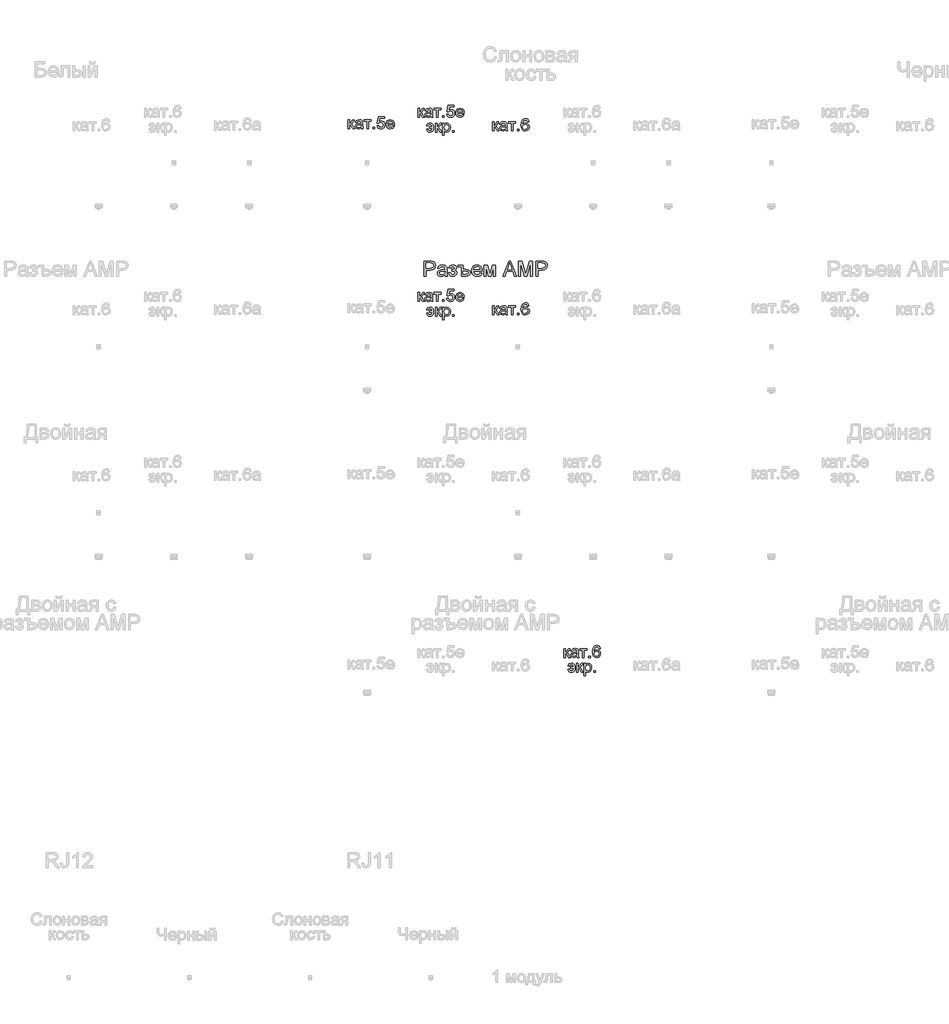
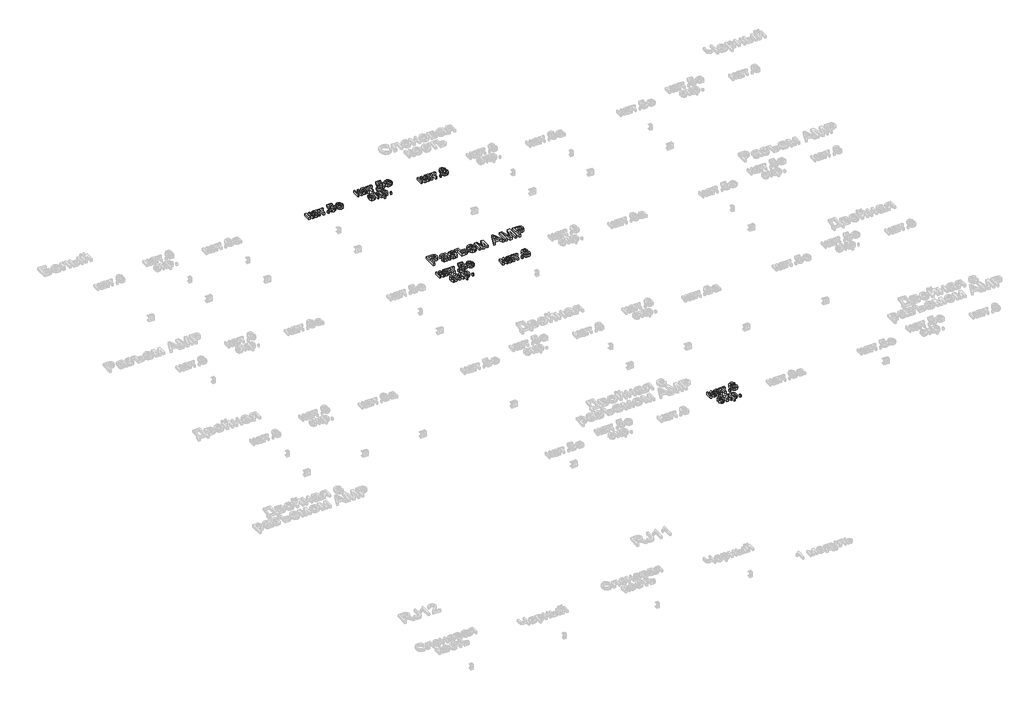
# One storey, part 28 of 47: 7 proxies.
"""IFC4 building model written with IfcOpenShell, lengths in millimetres."""

from ifc_helpers import new_model, si_unit, origin, origin_with_axes, place, context, project, spatial, polyline, outline, extrude, element, save

model = new_model("IFC4")

# Units and contexts
model_context = context("Model", 3, world=origin())
ifc_project = project(units=[si_unit("LENGTHUNIT", "METRE", prefix="MILLI")], contexts=[model_context])

# Site, building, storey
site = spatial("IfcSite", under=ifc_project)
building = spatial("IfcBuilding", under=site)
storey = spatial("IfcBuildingStorey", under=building, Name="Этаж 01", Elevation=0.0)

# Proxies
placement = place(None, origin())
element("IfcBuildingElementProxy", 1, Name="80 мм Arial", ObjectType="80 мм Arial", at=placement, inside=storey, context=model_context, shape_type="SweptSolid", body=[
    extrude(outline(polyline([(2660.6064135, -20034.963684), (2670.6520445, -20034.963684), (2670.6520445, -20060.0777615), (2677.3818324, -20058.2726872), (2682.8951573, -20047.7561672), (2687.4765144, -20038.6817447), (2691.5183112, -20035.7288785), (2698.866141, -20034.963684), (2700.7889375, -20034.963684), (2700.7889375, -20045.0681761), (2698.081326, -20045.009315), (2693.1762328, -20046.0688151), (2689.7230471, -20052.6808809), (2685.6714401, -20059.8325069), (2679.9913421, -20063.3347434), (2686.3287226, -20067.2441028), (2692.5483808, -20075.4797544), (2703.3003453, -20093.9817662), (2691.8812881, -20093.9817662), (2681.3451478, -20075.8721618), (2676.0476471, -20068.2104062), (2670.6520445, -20066.3562809), (2670.6520445, -20093.9817662), (2660.6064135, -20093.9817662), (2660.6064135, -20034.963684)])), origin_with_axes(), (0.0, 0.0, 1.0), 20.0),
    extrude(outline(polyline([(2747.249981, -20086.4475429), (2737.5084657, -20093.2558124), (2726.7466911, -20095.2374701), (2712.1589437, -20090.4697194), (2707.0674569, -20078.2854677), (2708.9902535, -20070.3392166), (2714.0424995, -20064.570827), (2721.0764033, -20061.2746043), (2729.7682285, -20059.7638355), (2747.1911198, -20056.3106499), (2747.249981, -20054.0739274), (2744.4835084, -20046.6574263), (2733.3783772, -20043.7536111), (2723.2150239, -20045.6862179), (2718.3687918, -20052.5435383), (2708.3231608, -20051.2878344), (2712.6690734, -20041.4776478), (2721.4197598, -20035.7288785), (2734.6733218, -20033.7079801), (2746.8477633, -20035.4934341), (2753.7247041, -20039.9766893), (2756.8051026, -20046.7947689), (2757.295612, -20055.5846961), (2757.295612, -20068.0828737), (2757.8057417, -20085.5351956), (2759.8070197, -20093.9817662), (2749.7613887, -20093.9817662), (2747.249981, -20086.4475429)]), holes=[polyline([(2747.249981, -20066.3562809), (2731.0435528, -20069.4366795), (2722.4007785, -20071.0651704), (2718.486514, -20073.7139208), (2717.1130879, -20077.5791343), (2720.1051948, -20083.0139776), (2728.8853118, -20085.1918391), (2739.048665, -20082.7883434), (2745.6018696, -20076.9709027), (2747.1911198, -20069.201235), (2747.249981, -20066.3562809)])]), origin_with_axes(), (0.0, 0.0, 1.0), 20.0),
    extrude(outline(polyline([(2766.0855391, -20034.963684), (2813.8022864, -20034.963684), (2813.8022864, -20045.009315), (2794.9667283, -20045.009315), (2794.9667283, -20093.9817662), (2784.9210973, -20093.9817662), (2784.9210973, -20045.009315), (2766.0855391, -20045.009315), (2766.0855391, -20034.963684)])), origin_with_axes(), (0.0, 0.0, 1.0), 20.0),
    extrude(outline(polyline([(2825.1036213, -20093.9817662), (2825.1036213, -20083.9361352), (2835.1492523, -20083.9361352), (2835.1492523, -20093.9817662), (2825.1036213, -20093.9817662)])), origin_with_axes(), (0.0, 0.0, 1.0), 20.0),
    extrude(outline(polyline([(2851.4734027, -20072.6348003), (2861.5190338, -20071.3790964), (2866.58109, -20081.7288432), (2877.0779896, -20085.1918391), (2889.6742691, -20080.3750375), (2894.1673346, -20067.5923644), (2889.9587645, -20055.6631776), (2877.2349526, -20051.2878344), (2868.4155949, -20053.0340476), (2862.7747376, -20057.5663538), (2852.7291066, -20056.3106499), (2861.5190338, -20014.872422), (2900.4458539, -20014.872422), (2900.4458539, -20024.918053), (2869.6418682, -20024.918053), (2865.3450065, -20047.0498338), (2880.0406659, -20041.2422034), (2889.4265619, -20043.0423726), (2897.2183026, -20048.4428803), (2902.4642998, -20056.6736268), (2904.2129656, -20066.9645125), (2902.6384306, -20077.0101435), (2897.9148258, -20085.6038669), (2888.8698338, -20092.8290693), (2877.0387489, -20095.2374701), (2867.1721537, -20093.6899131), (2859.3117418, -20089.0472424), (2853.9234968, -20081.849018), (2851.4734027, -20072.6348003)])), origin_with_axes(), (0.0, 0.0, 1.0), 20.0),
    extrude(outline(polyline([(2956.8348062, -20076.4019119), (2966.6842334, -20077.6576158), (2957.4724683, -20090.6266824), (2940.314452, -20095.2374701), (2928.5275129, -20093.2484548), (2919.4579954, -20087.2814088), (2913.6748905, -20077.7238346), (2911.7471888, -20064.9632344), (2913.6945109, -20051.7734386), (2919.5364769, -20041.9092961), (2928.4833671, -20035.7583091), (2939.7454612, -20033.7079801), (2950.6568412, -20035.753404), (2959.3756445, -20041.8896757), (2965.0925307, -20051.7341979), (2966.9981594, -20064.9043733), (2966.9392983, -20067.6119848), (2921.7928198, -20067.6119848), (2927.5710197, -20080.6595329), (2940.5106558, -20085.1918391), (2950.360083, -20083.0924591), (2956.8348062, -20076.4019119)]), holes=[polyline([(2921.7928198, -20057.5663538), (2956.9525284, -20057.5663538), (2952.9303519, -20048.4625007), (2939.7062205, -20043.7536111), (2927.3355752, -20047.5109126), (2921.7928198, -20057.5663538)])]), origin_with_axes(), (0.0, 0.0, 1.0), 20.0),
])
element("IfcBuildingElementProxy", 2, Name="80 мм Arial", ObjectType="80 мм Arial", at=placement, inside=storey, context=model_context, shape_type="SweptSolid", body=[
    extrude(outline(polyline([(3123.2827356, -19958.8197599), (3133.3283666, -19958.8197599), (3133.3283666, -19983.9338374), (3140.0581546, -19982.1287631), (3145.5714794, -19971.6122431), (3150.1528365, -19962.5378206), (3154.1946334, -19959.5849544), (3161.5424631, -19958.8197599), (3163.4652597, -19958.8197599), (3163.4652597, -19968.924252), (3160.7576482, -19968.8653909), (3155.8525549, -19969.924891), (3152.3993693, -19976.5369568), (3148.3477622, -19983.6885828), (3142.6676642, -19987.1908193), (3149.0050447, -19991.1001787), (3155.224703, -19999.3358303), (3165.9766674, -20017.8378421), (3154.5576103, -20017.8378421), (3144.02147, -19999.7282377), (3138.7239692, -19992.0664821), (3133.3283666, -19990.2123568), (3133.3283666, -20017.8378421), (3123.2827356, -20017.8378421), (3123.2827356, -19958.8197599)])), origin_with_axes(), (0.0, 0.0, 1.0), 20.0),
    extrude(outline(polyline([(3209.9263031, -20010.3036188), (3200.1847879, -20017.1118883), (3189.4230133, -20019.093546), (3174.8352659, -20014.3257953), (3169.7437791, -20002.1415436), (3171.6665756, -19994.1952925), (3176.7188217, -19988.4269029), (3183.7527254, -19985.1306802), (3192.4445507, -19983.6199114), (3209.867442, -19980.1667258), (3209.9263031, -19977.9300033), (3207.1598305, -19970.5135022), (3196.0546994, -19967.609687), (3185.8913461, -19969.5422938), (3181.045114, -19976.3996142), (3170.9994829, -19975.1439103), (3175.3453956, -19965.3337237), (3184.096082, -19959.5849544), (3197.349644, -19957.564056), (3209.5240855, -19959.34951), (3216.4010262, -19963.8327652), (3219.4814248, -19970.6508448), (3219.9719341, -19979.440772), (3219.9719341, -19991.9389496), (3220.4820638, -20009.3912715), (3222.4833419, -20017.8378421), (3212.4377109, -20017.8378421), (3209.9263031, -20010.3036188)]), holes=[polyline([(3209.9263031, -19990.2123568), (3193.719875, -19993.2927554), (3185.0771006, -19994.9212463), (3181.1628362, -19997.5699967), (3179.7894101, -20001.4352102), (3182.781517, -20006.8700535), (3191.5616339, -20009.047915), (3201.7249872, -20006.6444193), (3208.2781918, -20000.8269786), (3209.867442, -19993.0573109), (3209.9263031, -19990.2123568)])]), origin_with_axes(), (0.0, 0.0, 1.0), 20.0),
    extrude(outline(polyline([(3228.7618613, -19958.8197599), (3276.4786086, -19958.8197599), (3276.4786086, -19968.8653909), (3257.6430504, -19968.8653909), (3257.6430504, -20017.8378421), (3247.5974194, -20017.8378421), (3247.5974194, -19968.8653909), (3228.7618613, -19968.8653909), (3228.7618613, -19958.8197599)])), origin_with_axes(), (0.0, 0.0, 1.0), 20.0),
    extrude(outline(polyline([(3287.7799435, -20017.8378421), (3287.7799435, -20007.7922111), (3297.8255745, -20007.7922111), (3297.8255745, -20017.8378421), (3287.7799435, -20017.8378421)])), origin_with_axes(), (0.0, 0.0, 1.0), 20.0),
    extrude(outline(polyline([(3314.1497249, -19996.4908762), (3324.1953559, -19995.2351723), (3329.2574122, -20005.5849191), (3339.7543118, -20009.047915), (3352.3505913, -20004.2311134), (3356.8436567, -19991.4484403), (3352.6350867, -19979.5192535), (3339.9112748, -19975.1439103), (3331.0919171, -19976.8901235), (3325.4510598, -19981.4224297), (3315.4054288, -19980.1667258), (3324.1953559, -19938.7284978), (3363.1221761, -19938.7284978), (3363.1221761, -19948.7741289), (3332.3181904, -19948.7741289), (3328.0213287, -19970.9059097), (3342.7169881, -19965.0982793), (3352.1028841, -19966.8984485), (3359.8946247, -19972.2989562), (3365.140622, -19980.5297027), (3366.8892877, -19990.8205884), (3365.3147528, -20000.8662194), (3360.591148, -20009.4599428), (3351.546156, -20016.6851452), (3339.715071, -20019.093546), (3329.8484759, -20017.545989), (3321.9880639, -20012.9033183), (3316.599819, -20005.7050939), (3314.1497249, -19996.4908762)])), origin_with_axes(), (0.0, 0.0, 1.0), 20.0),
    extrude(outline(polyline([(3419.5111283, -20000.2579878), (3429.3605556, -20001.5136917), (3420.1487904, -20014.4827583), (3402.9907742, -20019.093546), (3391.2038351, -20017.1045306), (3382.1343176, -20011.1374847), (3376.3512126, -20001.5799105), (3374.423511, -19988.8193103), (3376.370833, -19975.6295145), (3382.2127991, -19965.7653719), (3391.1596892, -19959.614385), (3402.4217834, -19957.564056), (3413.3331634, -19959.6094799), (3422.0519666, -19965.7457516), (3427.7688528, -19975.5902738), (3429.6744816, -19988.7604492), (3429.6156205, -19991.4680607), (3384.469142, -19991.4680607), (3390.2473419, -20004.5156088), (3403.1869779, -20009.047915), (3413.0364052, -20006.948535), (3419.5111283, -20000.2579878)]), holes=[polyline([(3384.469142, -19981.4224297), (3419.6288506, -19981.4224297), (3415.6066741, -19972.3185766), (3402.3825426, -19967.609687), (3390.0118974, -19971.3669885), (3384.469142, -19981.4224297)])]), origin_with_axes(), (0.0, 0.0, 1.0), 20.0),
    extrude(outline(polyline([(3198.6249682, -20079.0022839), (3217.4605264, -20079.0022839), (3212.91841, -20069.0253242), (3203.3730985, -20065.1895413), (3195.2306437, -20067.700949), (3191.090745, -20075.2351723), (3181.045114, -20073.9794684), (3187.9416751, -20060.4119804), (3202.764867, -20055.1439103), (3213.0189644, -20057.1942393), (3220.8646611, -20063.3452262), (3225.8457833, -20073.0867415), (3227.5061574, -20085.9086553), (3226.1351838, -20098.6717079), (3221.3944112, -20108.7075288), (3213.6468164, -20115.0350991), (3203.2553763, -20116.6734002), (3194.3477269, -20115.2043248), (3187.3236333, -20110.7970985), (3179.7894101, -20095.3264343), (3189.8350411, -20094.0707305), (3194.1613334, -20103.4885095), (3203.0984133, -20106.6277692), (3213.0459424, -20102.2328057), (3217.4605264, -20089.047915), (3198.6249682, -20089.047915), (3198.6249682, -20079.0022839)])), origin_with_axes(), (0.0, 0.0, 1.0), 20.0),
    extrude(outline(polyline([(3238.8074923, -20056.3996142), (3248.8531233, -20056.3996142), (3248.8531233, -20081.5136917), (3255.5829113, -20079.7086174), (3261.0962361, -20069.1920974), (3265.6775932, -20060.1176749), (3269.7193901, -20057.1648087), (3277.0672198, -20056.3996142), (3278.9900164, -20056.3996142), (3278.9900164, -20066.5041063), (3276.2824049, -20066.4452452), (3271.3773116, -20067.5047453), (3267.9241259, -20074.116811), (3263.8725189, -20081.268437), (3258.1924209, -20084.7706736), (3264.5298014, -20088.680033), (3270.7494597, -20096.9156846), (3281.5014241, -20115.4176964), (3270.082367, -20115.4176964), (3259.5462266, -20097.308092), (3254.2487259, -20089.6463363), (3248.8531233, -20087.7922111), (3248.8531233, -20115.4176964), (3238.8074923, -20115.4176964), (3238.8074923, -20056.3996142)])), origin_with_axes(), (0.0, 0.0, 1.0), 20.0),
    extrude(outline(polyline([(3287.7799435, -20138.0203662), (3287.7799435, -20056.3996142), (3297.8255745, -20056.3996142), (3297.8255745, -20066.2490414), (3304.7711866, -20057.9201931), (3314.1497249, -20055.1439103), (3326.883347, -20059.0287441), (3335.2023852, -20069.9769123), (3338.0080986, -20085.4573867), (3334.8394083, -20101.7324861), (3325.6374533, -20112.8179969), (3312.9332618, -20116.6734002), (3304.1923856, -20114.0933212), (3297.8255745, -20107.5695471), (3297.8255745, -20138.0203662), (3287.7799435, -20138.0203662)]), holes=[polyline([(3297.8255745, -20086.3795442), (3302.1714871, -20101.6834352), (3312.7174377, -20106.6277692), (3323.4792123, -20101.5068519), (3327.9624676, -20085.63397), (3323.5871244, -20070.2908383), (3313.1294655, -20065.1895413), (3302.4657927, -20070.6145744), (3297.8255745, -20086.3795442)])]), origin_with_axes(), (0.0, 0.0, 1.0), 20.0),
    extrude(outline(polyline([(3351.8208412, -20115.4176964), (3351.8208412, -20105.3720654), (3361.8664722, -20105.3720654), (3361.8664722, -20115.4176964), (3351.8208412, -20115.4176964)])), origin_with_axes(), (0.0, 0.0, 1.0), 20.0),
])
element("IfcBuildingElementProxy", 3, Name="80 мм Arial", ObjectType="80 мм Arial", at=placement, inside=storey, context=model_context, shape_type="SweptSolid", body=[
    extrude(outline(polyline([(3617.8748928, -20047.654338), (3627.9205238, -20047.654338), (3627.9205238, -20072.7684155), (3634.6503118, -20070.9633412), (3640.1636366, -20060.4468212), (3644.7449937, -20051.3723987), (3648.7867906, -20048.4195325), (3656.1346203, -20047.654338), (3658.0574169, -20047.654338), (3658.0574169, -20057.7588301), (3655.3498054, -20057.699969), (3650.4447121, -20058.7594692), (3646.9915264, -20065.3715349), (3642.9399194, -20072.5231609), (3637.2598214, -20076.0253975), (3643.5972019, -20079.9347568), (3649.8168602, -20088.1704084), (3660.5688246, -20106.6724202), (3649.1497675, -20106.6724202), (3638.6136271, -20088.5628159), (3633.3161264, -20080.9010602), (3627.9205238, -20079.0469349), (3627.9205238, -20106.6724202), (3617.8748928, -20106.6724202), (3617.8748928, -20047.654338)])), origin_with_axes(), (0.0, 0.0, 1.0), 20.0),
    extrude(outline(polyline([(3704.5184603, -20099.1381969), (3694.7769451, -20105.9464664), (3684.0151704, -20107.9281241), (3669.4274231, -20103.1603734), (3664.3359362, -20090.9761218), (3666.2587328, -20083.0298707), (3671.3109789, -20077.261481), (3678.3448826, -20073.9652583), (3687.0367079, -20072.4544896), (3704.4595992, -20069.0013039), (3704.5184603, -20066.7645814), (3701.7519877, -20059.3480804), (3690.6468565, -20056.4442651), (3680.4835033, -20058.3768719), (3675.6372711, -20065.2341923), (3665.5916401, -20063.9784884), (3669.9375528, -20054.1683019), (3678.6882391, -20048.4195325), (3691.9418012, -20046.3986341), (3704.1162427, -20048.1840881), (3710.9931834, -20052.6673433), (3714.073582, -20059.485423), (3714.5640913, -20068.2753501), (3714.5640913, -20080.7735278), (3715.074221, -20098.2258496), (3717.0754991, -20106.6724202), (3707.0298681, -20106.6724202), (3704.5184603, -20099.1381969)]), holes=[polyline([(3704.5184603, -20079.0469349), (3688.3120321, -20082.1273335), (3679.6692578, -20083.7558245), (3675.7549934, -20086.4045748), (3674.3815673, -20090.2697883), (3677.3736742, -20095.7046317), (3686.1537911, -20097.8824931), (3696.3171444, -20095.4789974), (3702.870349, -20089.6615568), (3704.4595992, -20081.891889), (3704.5184603, -20079.0469349)])]), origin_with_axes(), (0.0, 0.0, 1.0), 20.0),
    extrude(outline(polyline([(3723.3540185, -20047.654338), (3771.0707658, -20047.654338), (3771.0707658, -20057.699969), (3752.2352076, -20057.699969), (3752.2352076, -20106.6724202), (3742.1895766, -20106.6724202), (3742.1895766, -20057.699969), (3723.3540185, -20057.699969), (3723.3540185, -20047.654338)])), origin_with_axes(), (0.0, 0.0, 1.0), 20.0),
    extrude(outline(polyline([(3782.3721007, -20106.6724202), (3782.3721007, -20096.6267892), (3792.4177317, -20096.6267892), (3792.4177317, -20106.6724202), (3782.3721007, -20106.6724202)])), origin_with_axes(), (0.0, 0.0, 1.0), 20.0),
    extrude(outline(polyline([(3860.225741, -20047.654338), (3850.18011, -20048.9100419), (3846.3737576, -20040.5321426), (3836.3085063, -20036.3530031), (3827.2438939, -20038.7859294), (3820.3865735, -20047.919213), (3817.5318092, -20065.8228035), (3826.3904077, -20057.8078811), (3837.3680064, -20055.1885613), (3846.6484429, -20056.9789203), (3854.437731, -20062.3499974), (3859.7205164, -20070.5562185), (3861.4814449, -20080.8520092), (3858.1656019, -20094.7138028), (3849.0421284, -20104.5239894), (3835.876858, -20107.9281241), (3824.4798738, -20105.6717812), (3815.4029987, -20098.9027525), (3809.4653833, -20086.9539453), (3807.4861782, -20069.1582669), (3809.68366, -20049.1503914), (3816.2761053, -20035.4700863), (3825.2769515, -20028.5980506), (3836.9363582, -20026.3073721), (3845.7508108, -20027.724944), (3852.80924, -20031.9776599), (3860.225741, -20047.654338)]), holes=[polyline([(3817.5318092, -20080.6950463), (3819.8568234, -20089.3966817), (3826.0372409, -20095.7144418), (3835.0920431, -20097.8824931), (3846.9329383, -20093.3894276), (3851.4358139, -20081.1855556), (3846.9917994, -20069.5016234), (3834.6800153, -20065.2341923), (3822.5251942, -20069.5016234), (3817.5318092, -20080.6950463)])]), origin_with_axes(), (0.0, 0.0, 1.0), 20.0),
])
element("IfcBuildingElementProxy", 4, Name="100 мм Arial", ObjectType="100 мм Arial", at=placement, inside=storey, context=model_context, shape_type="SweptSolid", body=[
    extrude(outline(polyline([(3164.3904734, -21070.9026382), (3164.3904734, -20970.4463281), (3201.6201313, -20970.4463281), (3216.6297168, -20971.4028213), (3228.8311363, -20976.0994481), (3236.7405992, -20985.8115327), (3239.732706, -20999.5090057), (3237.7124208, -21011.3486746), (3231.6515649, -21021.2140434), (3220.3177338, -21027.8727075), (3202.4785227, -21030.0922622), (3176.9475122, -21030.0922622), (3176.9475122, -21070.9026382), (3164.3904734, -21070.9026382)]), holes=[polyline([(3176.9475122, -21017.5352234), (3203.2142867, -21017.5352234), (3221.7064883, -21012.9244358), (3225.8083725, -21007.375549), (3227.1756673, -20999.9504641), (3223.9505685, -20989.5516664), (3215.4770198, -20983.8617582), (3202.9199811, -20983.0033668), (3176.9475122, -20983.0033668), (3176.9475122, -21017.5352234)])]), origin_with_axes(), (0.0, 0.0, 1.0), 20.0),
    extrude(outline(polyline([(3302.5178999, -21061.4848591), (3290.3410059, -21069.995196), (3276.8887876, -21072.4722681), (3266.3949537, -21070.982346), (3258.6541033, -21066.5125797), (3253.8808344, -21059.7251569), (3252.2897448, -21051.2822651), (3254.6932405, -21041.3494513), (3261.0085481, -21034.1389642), (3269.8009278, -21030.0186858), (3280.6657094, -21028.1302249), (3302.4443235, -21023.8137428), (3302.5178999, -21021.0178397), (3299.0598091, -21011.7472134), (3285.1783952, -21008.1174444), (3272.4742036, -21010.5332028), (3266.4164134, -21019.1048533), (3253.8593747, -21017.5352234), (3259.2917655, -21005.2724903), (3270.2301234, -20998.0865286), (3286.797076, -20995.5604056), (3302.0151278, -20997.792223), (3310.6113038, -21003.3962921), (3314.461802, -21011.9188917), (3315.0749387, -21022.9063006), (3315.0749387, -21038.5290226), (3315.7126008, -21060.344425), (3318.2141984, -21070.9026382), (3305.6571596, -21070.9026382), (3302.5178999, -21061.4848591)]), holes=[polyline([(3302.5178999, -21036.3707816), (3282.2598647, -21040.2212798), (3271.4563968, -21042.2568935), (3266.5635662, -21045.5678315), (3264.8467836, -21050.3993484), (3268.5869172, -21057.1929025), (3279.5620634, -21059.9152293), (3292.266255, -21056.9108597), (3300.4577607, -21049.6390589), (3302.4443235, -21039.9269742), (3302.5178999, -21036.3707816)])]), origin_with_axes(), (0.0, 0.0, 1.0), 20.0),
    extrude(outline(polyline([(3349.6067953, -21037.9404114), (3349.6067953, -21025.3833727), (3359.5150837, -21024.8928634), (3364.5182788, -21022.2809012), (3366.8727236, -21016.8239849), (3363.7212012, -21010.4841519), (3355.5910091, -21008.1174444), (3347.1910368, -21010.4718891), (3341.758646, -21017.5352234), (3327.6319774, -21015.9655936), (3337.074282, -21000.6617026), (3354.3156848, -20995.5604056), (3364.8125844, -20997.114707), (3372.7588355, -21001.7776113), (3377.7620306, -21008.5987567), (3379.4297624, -21016.6277812), (3377.0569235, -21024.4268795), (3369.9384069, -21030.4601442), (3378.2402772, -21038.283768), (3380.9993922, -21049.540957), (3379.248887, -21058.7839922), (3373.9973716, -21066.1079095), (3365.600465, -21070.8811784), (3354.4137867, -21072.4722681), (3343.472363, -21071.0007401), (3335.0999819, -21066.5861561), (3329.2966435, -21059.2285162), (3326.0623476, -21048.9278204), (3340.1890162, -21047.3581905), (3345.8543989, -21056.6288168), (3355.6155345, -21059.9152293), (3364.7880589, -21056.7637069), (3368.4423534, -21048.7070912), (3366.1737478, -21042.1097407), (3361.3422309, -21038.5780736), (3352.0593419, -21037.8668351), (3349.6067953, -21037.9404114)])), origin_with_axes(), (0.0, 0.0, 1.0), 20.0),
    extrude(outline(polyline([(3390.4171713, -20997.1300355), (3423.379398, -20997.1300355), (3423.379398, -21025.3833727), (3438.9530692, -21025.3833727), (3453.2391533, -21027.044973), (3462.9880262, -21032.0297741), (3468.5982266, -21039.4242022), (3470.4682934, -21048.3146837), (3468.6472775, -21057.3921719), (3463.1842299, -21064.6118561), (3454.1649897, -21069.3299427), (3441.6753959, -21070.9026382), (3410.8223593, -21070.9026382), (3410.8223593, -21009.6870742), (3390.4171713, -21009.6870742), (3390.4171713, -20997.1300355)]), holes=[polyline([(3423.379398, -21058.3455994), (3436.3043188, -21058.3455994), (3452.9938987, -21055.929841), (3457.9112547, -21048.1675309), (3453.7051372, -21040.6136873), (3437.9475251, -21037.9404114), (3423.379398, -21037.9404114), (3423.379398, -21058.3455994)])]), origin_with_axes(), (0.0, 0.0, 1.0), 20.0),
    extrude(outline(polyline([(3536.2455942, -21048.9278204), (3548.5573783, -21050.4974502), (3544.1213345, -21059.7742079), (3537.0426718, -21066.7087835), (3527.4808056, -21071.0313969), (3515.5951515, -21072.4722681), (3500.8614776, -21069.9859989), (3489.5245808, -21062.5271915), (3482.2956996, -21050.5802237), (3479.8860725, -21034.6294735), (3482.320225, -21018.1422287), (3489.6226826, -21005.8120505), (3500.8062953, -20998.1233168), (3514.883913, -20995.5604056), (3528.5231379, -20998.1171855), (3539.4216421, -21005.7875251), (3546.5677498, -21018.0931778), (3548.9497857, -21034.5558971), (3548.8762093, -21037.9404114), (3492.4431113, -21037.9404114), (3494.6166807, -21047.3397964), (3499.6658611, -21054.2498466), (3506.9529903, -21058.4988836), (3515.8404062, -21059.9152293), (3528.1521903, -21057.2910044), (3536.2455942, -21048.9278204)]), holes=[polyline([(3492.4431113, -21025.3833727), (3536.392747, -21025.3833727), (3531.3650264, -21014.0035563), (3524.0441747, -21009.5889724), (3514.834862, -21008.1174444), (3499.3715555, -21012.8140712), (3494.5063161, -21018.30471), (3492.4431113, -21025.3833727)])]), origin_with_axes(), (0.0, 0.0, 1.0), 20.0),
    extrude(outline(polyline([(3561.5068245, -20997.1300355), (3583.1137603, -20997.1300355), (3599.766552, -21056.1873584), (3617.7191934, -20997.1300355), (3638.418687, -20997.1300355), (3638.418687, -21070.9026382), (3625.8616482, -21070.9026382), (3625.8616482, -21011.5019587), (3607.810905, -21070.9026382), (3591.3297916, -21070.9026382), (3574.0638633, -21008.6570046), (3574.0638633, -21070.9026382), (3561.5068245, -21070.9026382), (3561.5068245, -20997.1300355)])), origin_with_axes(), (0.0, 0.0, 1.0), 20.0),
    extrude(outline(polyline([(3686.3659737, -21070.9026382), (3726.4651111, -20970.4463281), (3737.1582145, -20970.4463281), (3777.2573519, -21070.9026382), (3763.9890746, -21070.9026382), (3752.4866309, -21039.5100413), (3711.1121692, -21039.5100413), (3699.634251, -21070.9026382), (3686.3659737, -21070.9026382)]), holes=[polyline([(3715.7229569, -21026.9530025), (3747.9003687, -21026.9530025), (3738.8504716, -21002.2558579), (3731.8116628, -20983.0033668), (3725.5576689, -21000.0976169), (3715.7229569, -21026.9530025)])]), origin_with_axes(), (0.0, 0.0, 1.0), 20.0),
    extrude(outline(polyline([(3790.672782, -21070.9026382), (3790.672782, -20970.4463281), (3812.2797179, -20970.4463281), (3832.8320587, -21041.2513494), (3836.9768625, -21056.0402056), (3841.4650228, -21040.0250761), (3861.6740071, -20970.4463281), (3883.2809429, -20970.4463281), (3883.2809429, -21070.9026382), (3870.7239042, -21070.9026382), (3870.7239042, -20983.0033668), (3845.4871993, -21070.9026382), (3828.4665257, -21070.9026382), (3803.2298208, -20983.0033668), (3803.2298208, -21070.9026382), (3790.672782, -21070.9026382)])), origin_with_axes(), (0.0, 0.0, 1.0), 20.0),
    extrude(outline(polyline([(3905.2557608, -21070.9026382), (3905.2557608, -20970.4463281), (3942.4854187, -20970.4463281), (3957.4950041, -20971.4028213), (3969.6964236, -20976.0994481), (3977.6058865, -20985.8115327), (3980.5979934, -20999.5090057), (3978.5777081, -21011.3486746), (3972.5168522, -21021.2140434), (3961.1830211, -21027.8727075), (3943.34381, -21030.0922622), (3917.8127996, -21030.0922622), (3917.8127996, -21070.9026382), (3905.2557608, -21070.9026382)]), holes=[polyline([(3917.8127996, -21017.5352234), (3944.079574, -21017.5352234), (3962.5717756, -21012.9244358), (3966.6736599, -21007.375549), (3968.0409546, -20999.9504641), (3964.8158558, -20989.5516664), (3956.3423072, -20983.8617582), (3943.7852684, -20983.0033668), (3917.8127996, -20983.0033668), (3917.8127996, -21017.5352234)])]), origin_with_axes(), (0.0, 0.0, 1.0), 20.0),
])
element("IfcBuildingElementProxy", 5, Name="80 мм Arial", ObjectType="80 мм Arial", at=placement, inside=storey, context=model_context, shape_type="SweptSolid", body=[
    extrude(outline(polyline([(3123.2827356, -21178.8197599), (3133.3283666, -21178.8197599), (3133.3283666, -21203.9338374), (3140.0581546, -21202.1287631), (3145.5714794, -21191.6122431), (3150.1528365, -21182.5378206), (3154.1946334, -21179.5849544), (3161.5424631, -21178.8197599), (3163.4652597, -21178.8197599), (3163.4652597, -21188.924252), (3160.7576482, -21188.8653909), (3155.8525549, -21189.924891), (3152.3993693, -21196.5369568), (3148.3477622, -21203.6885828), (3142.6676642, -21207.1908193), (3149.0050447, -21211.1001787), (3155.224703, -21219.3358303), (3165.9766674, -21237.8378421), (3154.5576103, -21237.8378421), (3144.02147, -21219.7282377), (3138.7239692, -21212.0664821), (3133.3283666, -21210.2123568), (3133.3283666, -21237.8378421), (3123.2827356, -21237.8378421), (3123.2827356, -21178.8197599)])), origin_with_axes(), (0.0, 0.0, 1.0), 20.0),
    extrude(outline(polyline([(3209.9263031, -21230.3036188), (3200.1847879, -21237.1118883), (3189.4230133, -21239.093546), (3174.8352659, -21234.3257953), (3169.7437791, -21222.1415436), (3171.6665756, -21214.1952925), (3176.7188217, -21208.4269029), (3183.7527254, -21205.1306802), (3192.4445507, -21203.6199114), (3209.867442, -21200.1667258), (3209.9263031, -21197.9300033), (3207.1598305, -21190.5135022), (3196.0546994, -21187.609687), (3185.8913461, -21189.5422938), (3181.045114, -21196.3996142), (3170.9994829, -21195.1439103), (3175.3453956, -21185.3337237), (3184.096082, -21179.5849544), (3197.349644, -21177.564056), (3209.5240855, -21179.34951), (3216.4010262, -21183.8327652), (3219.4814248, -21190.6508448), (3219.9719341, -21199.440772), (3219.9719341, -21211.9389496), (3220.4820638, -21229.3912715), (3222.4833419, -21237.8378421), (3212.4377109, -21237.8378421), (3209.9263031, -21230.3036188)]), holes=[polyline([(3209.9263031, -21210.2123568), (3193.719875, -21213.2927554), (3185.0771006, -21214.9212463), (3181.1628362, -21217.5699967), (3179.7894101, -21221.4352102), (3182.781517, -21226.8700535), (3191.5616339, -21229.047915), (3201.7249872, -21226.6444193), (3208.2781918, -21220.8269786), (3209.867442, -21213.0573109), (3209.9263031, -21210.2123568)])]), origin_with_axes(), (0.0, 0.0, 1.0), 20.0),
    extrude(outline(polyline([(3228.7618613, -21178.8197599), (3276.4786086, -21178.8197599), (3276.4786086, -21188.8653909), (3257.6430504, -21188.8653909), (3257.6430504, -21237.8378421), (3247.5974194, -21237.8378421), (3247.5974194, -21188.8653909), (3228.7618613, -21188.8653909), (3228.7618613, -21178.8197599)])), origin_with_axes(), (0.0, 0.0, 1.0), 20.0),
    extrude(outline(polyline([(3287.7799435, -21237.8378421), (3287.7799435, -21227.7922111), (3297.8255745, -21227.7922111), (3297.8255745, -21237.8378421), (3287.7799435, -21237.8378421)])), origin_with_axes(), (0.0, 0.0, 1.0), 20.0),
    extrude(outline(polyline([(3314.1497249, -21216.4908762), (3324.1953559, -21215.2351723), (3329.2574122, -21225.5849191), (3339.7543118, -21229.047915), (3352.3505913, -21224.2311134), (3356.8436567, -21211.4484403), (3352.6350867, -21199.5192535), (3339.9112748, -21195.1439103), (3331.0919171, -21196.8901235), (3325.4510598, -21201.4224297), (3315.4054288, -21200.1667258), (3324.1953559, -21158.7284978), (3363.1221761, -21158.7284978), (3363.1221761, -21168.7741289), (3332.3181904, -21168.7741289), (3328.0213287, -21190.9059097), (3342.7169881, -21185.0982793), (3352.1028841, -21186.8984485), (3359.8946247, -21192.2989562), (3365.140622, -21200.5297027), (3366.8892877, -21210.8205884), (3365.3147528, -21220.8662194), (3360.591148, -21229.4599428), (3351.546156, -21236.6851452), (3339.715071, -21239.093546), (3329.8484759, -21237.545989), (3321.9880639, -21232.9033183), (3316.599819, -21225.7050939), (3314.1497249, -21216.4908762)])), origin_with_axes(), (0.0, 0.0, 1.0), 20.0),
    extrude(outline(polyline([(3419.5111283, -21220.2579878), (3429.3605556, -21221.5136917), (3420.1487904, -21234.4827583), (3402.9907742, -21239.093546), (3391.2038351, -21237.1045306), (3382.1343176, -21231.1374847), (3376.3512126, -21221.5799105), (3374.423511, -21208.8193103), (3376.370833, -21195.6295145), (3382.2127991, -21185.7653719), (3391.1596892, -21179.614385), (3402.4217834, -21177.564056), (3413.3331634, -21179.6094799), (3422.0519666, -21185.7457516), (3427.7688528, -21195.5902738), (3429.6744816, -21208.7604492), (3429.6156205, -21211.4680607), (3384.469142, -21211.4680607), (3390.2473419, -21224.5156088), (3403.1869779, -21229.047915), (3413.0364052, -21226.948535), (3419.5111283, -21220.2579878)]), holes=[polyline([(3384.469142, -21201.4224297), (3419.6288506, -21201.4224297), (3415.6066741, -21192.3185766), (3402.3825426, -21187.609687), (3390.0118974, -21191.3669885), (3384.469142, -21201.4224297)])]), origin_with_axes(), (0.0, 0.0, 1.0), 20.0),
    extrude(outline(polyline([(3198.6249682, -21299.0022839), (3217.4605264, -21299.0022839), (3212.91841, -21289.0253242), (3203.3730985, -21285.1895413), (3195.2306437, -21287.700949), (3191.090745, -21295.2351723), (3181.045114, -21293.9794684), (3187.9416751, -21280.4119804), (3202.764867, -21275.1439103), (3213.0189644, -21277.1942393), (3220.8646611, -21283.3452262), (3225.8457833, -21293.0867415), (3227.5061574, -21305.9086553), (3226.1351838, -21318.6717079), (3221.3944112, -21328.7075288), (3213.6468164, -21335.0350991), (3203.2553763, -21336.6734002), (3194.3477269, -21335.2043248), (3187.3236333, -21330.7970985), (3179.7894101, -21315.3264343), (3189.8350411, -21314.0707305), (3194.1613334, -21323.4885095), (3203.0984133, -21326.6277692), (3213.0459424, -21322.2328057), (3217.4605264, -21309.047915), (3198.6249682, -21309.047915), (3198.6249682, -21299.0022839)])), origin_with_axes(), (0.0, 0.0, 1.0), 20.0),
    extrude(outline(polyline([(3238.8074923, -21276.3996142), (3248.8531233, -21276.3996142), (3248.8531233, -21301.5136917), (3255.5829113, -21299.7086174), (3261.0962361, -21289.1920974), (3265.6775932, -21280.1176749), (3269.7193901, -21277.1648087), (3277.0672198, -21276.3996142), (3278.9900164, -21276.3996142), (3278.9900164, -21286.5041063), (3276.2824049, -21286.4452452), (3271.3773116, -21287.5047453), (3267.9241259, -21294.116811), (3263.8725189, -21301.268437), (3258.1924209, -21304.7706736), (3264.5298014, -21308.680033), (3270.7494597, -21316.9156846), (3281.5014241, -21335.4176964), (3270.082367, -21335.4176964), (3259.5462266, -21317.308092), (3254.2487259, -21309.6463363), (3248.8531233, -21307.7922111), (3248.8531233, -21335.4176964), (3238.8074923, -21335.4176964), (3238.8074923, -21276.3996142)])), origin_with_axes(), (0.0, 0.0, 1.0), 20.0),
    extrude(outline(polyline([(3287.7799435, -21358.0203662), (3287.7799435, -21276.3996142), (3297.8255745, -21276.3996142), (3297.8255745, -21286.2490414), (3304.7711866, -21277.9201931), (3314.1497249, -21275.1439103), (3326.883347, -21279.0287441), (3335.2023852, -21289.9769123), (3338.0080986, -21305.4573867), (3334.8394083, -21321.7324861), (3325.6374533, -21332.8179969), (3312.9332618, -21336.6734002), (3304.1923856, -21334.0933212), (3297.8255745, -21327.5695471), (3297.8255745, -21358.0203662), (3287.7799435, -21358.0203662)]), holes=[polyline([(3297.8255745, -21306.3795442), (3302.1714871, -21321.6834352), (3312.7174377, -21326.6277692), (3323.4792123, -21321.5068519), (3327.9624676, -21305.63397), (3323.5871244, -21290.2908383), (3313.1294655, -21285.1895413), (3302.4657927, -21290.6145744), (3297.8255745, -21306.3795442)])]), origin_with_axes(), (0.0, 0.0, 1.0), 20.0),
    extrude(outline(polyline([(3351.8208412, -21335.4176964), (3351.8208412, -21325.3720654), (3361.8664722, -21325.3720654), (3361.8664722, -21335.4176964), (3351.8208412, -21335.4176964)])), origin_with_axes(), (0.0, 0.0, 1.0), 20.0),
])
element("IfcBuildingElementProxy", 6, Name="80 мм Arial", ObjectType="80 мм Arial", at=placement, inside=storey, context=model_context, shape_type="SweptSolid", body=[
    extrude(outline(polyline([(3617.8748928, -21267.654338), (3627.9205238, -21267.654338), (3627.9205238, -21292.7684155), (3634.6503118, -21290.9633412), (3640.1636366, -21280.4468212), (3644.7449937, -21271.3723987), (3648.7867906, -21268.4195325), (3656.1346203, -21267.654338), (3658.0574169, -21267.654338), (3658.0574169, -21277.7588301), (3655.3498054, -21277.699969), (3650.4447121, -21278.7594692), (3646.9915264, -21285.3715349), (3642.9399194, -21292.5231609), (3637.2598214, -21296.0253975), (3643.5972019, -21299.9347568), (3649.8168602, -21308.1704084), (3660.5688246, -21326.6724202), (3649.1497675, -21326.6724202), (3638.6136271, -21308.5628159), (3633.3161264, -21300.9010602), (3627.9205238, -21299.0469349), (3627.9205238, -21326.6724202), (3617.8748928, -21326.6724202), (3617.8748928, -21267.654338)])), origin_with_axes(), (0.0, 0.0, 1.0), 20.0),
    extrude(outline(polyline([(3704.5184603, -21319.1381969), (3694.7769451, -21325.9464664), (3684.0151704, -21327.9281241), (3669.4274231, -21323.1603734), (3664.3359362, -21310.9761218), (3666.2587328, -21303.0298707), (3671.3109789, -21297.261481), (3678.3448826, -21293.9652583), (3687.0367079, -21292.4544896), (3704.4595992, -21289.0013039), (3704.5184603, -21286.7645814), (3701.7519877, -21279.3480804), (3690.6468565, -21276.4442651), (3680.4835033, -21278.3768719), (3675.6372711, -21285.2341923), (3665.5916401, -21283.9784884), (3669.9375528, -21274.1683019), (3678.6882391, -21268.4195325), (3691.9418012, -21266.3986341), (3704.1162427, -21268.1840881), (3710.9931834, -21272.6673433), (3714.073582, -21279.485423), (3714.5640913, -21288.2753501), (3714.5640913, -21300.7735278), (3715.074221, -21318.2258496), (3717.0754991, -21326.6724202), (3707.0298681, -21326.6724202), (3704.5184603, -21319.1381969)]), holes=[polyline([(3704.5184603, -21299.0469349), (3688.3120321, -21302.1273335), (3679.6692578, -21303.7558245), (3675.7549934, -21306.4045748), (3674.3815673, -21310.2697883), (3677.3736742, -21315.7046317), (3686.1537911, -21317.8824931), (3696.3171444, -21315.4789974), (3702.870349, -21309.6615568), (3704.4595992, -21301.891889), (3704.5184603, -21299.0469349)])]), origin_with_axes(), (0.0, 0.0, 1.0), 20.0),
    extrude(outline(polyline([(3723.3540185, -21267.654338), (3771.0707658, -21267.654338), (3771.0707658, -21277.699969), (3752.2352076, -21277.699969), (3752.2352076, -21326.6724202), (3742.1895766, -21326.6724202), (3742.1895766, -21277.699969), (3723.3540185, -21277.699969), (3723.3540185, -21267.654338)])), origin_with_axes(), (0.0, 0.0, 1.0), 20.0),
    extrude(outline(polyline([(3782.3721007, -21326.6724202), (3782.3721007, -21316.6267892), (3792.4177317, -21316.6267892), (3792.4177317, -21326.6724202), (3782.3721007, -21326.6724202)])), origin_with_axes(), (0.0, 0.0, 1.0), 20.0),
    extrude(outline(polyline([(3860.225741, -21267.654338), (3850.18011, -21268.9100419), (3846.3737576, -21260.5321426), (3836.3085063, -21256.3530031), (3827.2438939, -21258.7859294), (3820.3865735, -21267.919213), (3817.5318092, -21285.8228035), (3826.3904077, -21277.8078811), (3837.3680064, -21275.1885613), (3846.6484429, -21276.9789203), (3854.437731, -21282.3499974), (3859.7205164, -21290.5562185), (3861.4814449, -21300.8520092), (3858.1656019, -21314.7138028), (3849.0421284, -21324.5239894), (3835.876858, -21327.9281241), (3824.4798738, -21325.6717812), (3815.4029987, -21318.9027525), (3809.4653833, -21306.9539453), (3807.4861782, -21289.1582669), (3809.68366, -21269.1503914), (3816.2761053, -21255.4700863), (3825.2769515, -21248.5980506), (3836.9363582, -21246.3073721), (3845.7508108, -21247.724944), (3852.80924, -21251.9776599), (3860.225741, -21267.654338)]), holes=[polyline([(3817.5318092, -21300.6950463), (3819.8568234, -21309.3966817), (3826.0372409, -21315.7144418), (3835.0920431, -21317.8824931), (3846.9329383, -21313.3894276), (3851.4358139, -21301.1855556), (3846.9917994, -21289.5016234), (3834.6800153, -21285.2341923), (3822.5251942, -21289.5016234), (3817.5318092, -21300.6950463)])]), origin_with_axes(), (0.0, 0.0, 1.0), 20.0),
])
element("IfcBuildingElementProxy", 7, Name="80 мм Arial", ObjectType="80 мм Arial", at=placement, inside=storey, context=model_context, shape_type="SweptSolid", body=[
    extrude(outline(polyline([(4090.9396889, -23538.8197599), (4100.9853199, -23538.8197599), (4100.9853199, -23563.9338374), (4107.7151079, -23562.1287631), (4113.2284327, -23551.6122431), (4117.8097899, -23542.5378206), (4121.8515867, -23539.5849544), (4129.1994164, -23538.8197599), (4131.122213, -23538.8197599), (4131.122213, -23548.924252), (4128.4146015, -23548.8653909), (4123.5095082, -23549.924891), (4120.0563226, -23556.5369568), (4116.0047155, -23563.6885828), (4110.3246175, -23567.1908193), (4116.661998, -23571.1001787), (4122.8816563, -23579.3358303), (4133.6336207, -23597.8378421), (4122.2145636, -23597.8378421), (4111.6784233, -23579.7282377), (4106.3809225, -23572.0664821), (4100.9853199, -23570.2123568), (4100.9853199, -23597.8378421), (4090.9396889, -23597.8378421), (4090.9396889, -23538.8197599)])), origin_with_axes(), (0.0, 0.0, 1.0), 20.0),
    extrude(outline(polyline([(4177.5832564, -23590.3036188), (4167.8417412, -23597.1118883), (4157.0799666, -23599.093546), (4142.4922192, -23594.3257953), (4137.4007324, -23582.1415436), (4139.3235289, -23574.1952925), (4144.375775, -23568.4269029), (4151.4096787, -23565.1306802), (4160.101504, -23563.6199114), (4177.5243953, -23560.1667258), (4177.5832564, -23557.9300033), (4174.8167838, -23550.5135022), (4163.7116527, -23547.609687), (4153.5482994, -23549.5422938), (4148.7020673, -23556.3996142), (4138.6564362, -23555.1439103), (4143.0023489, -23545.3337237), (4151.7530353, -23539.5849544), (4165.0065973, -23537.564056), (4177.1810388, -23539.34951), (4184.0579795, -23543.8327652), (4187.1383781, -23550.6508448), (4187.6288874, -23559.440772), (4187.6288874, -23571.9389496), (4188.1390171, -23589.3912715), (4190.1402952, -23597.8378421), (4180.0946642, -23597.8378421), (4177.5832564, -23590.3036188)]), holes=[polyline([(4177.5832564, -23570.2123568), (4161.3768283, -23573.2927554), (4152.7340539, -23574.9212463), (4148.8197895, -23577.5699967), (4147.4463634, -23581.4352102), (4150.4384703, -23586.8700535), (4159.2185872, -23589.047915), (4169.3819405, -23586.6444193), (4175.9351451, -23580.8269786), (4177.5243953, -23573.0573109), (4177.5832564, -23570.2123568)])]), origin_with_axes(), (0.0, 0.0, 1.0), 20.0),
    extrude(outline(polyline([(4196.4188146, -23538.8197599), (4244.1355619, -23538.8197599), (4244.1355619, -23548.8653909), (4225.3000037, -23548.8653909), (4225.3000037, -23597.8378421), (4215.2543727, -23597.8378421), (4215.2543727, -23548.8653909), (4196.4188146, -23548.8653909), (4196.4188146, -23538.8197599)])), origin_with_axes(), (0.0, 0.0, 1.0), 20.0),
    extrude(outline(polyline([(4255.4368968, -23597.8378421), (4255.4368968, -23587.7922111), (4265.4825278, -23587.7922111), (4265.4825278, -23597.8378421), (4255.4368968, -23597.8378421)])), origin_with_axes(), (0.0, 0.0, 1.0), 20.0),
    extrude(outline(polyline([(4333.2905372, -23538.8197599), (4323.2449061, -23540.0754638), (4319.4385538, -23531.6975645), (4309.3733024, -23527.518425), (4300.30869, -23529.9513512), (4293.4513696, -23539.0846349), (4290.5966053, -23556.9882253), (4299.4552038, -23548.9733029), (4310.4328025, -23546.3539831), (4319.713239, -23548.1443422), (4327.5025271, -23553.5154193), (4332.7853126, -23561.7216404), (4334.546241, -23572.0174311), (4331.230398, -23585.8792247), (4322.1069245, -23595.6894112), (4308.9416542, -23599.093546), (4297.54467, -23596.8372031), (4288.4677949, -23590.0681744), (4282.5301795, -23578.1193672), (4280.5509743, -23560.3236888), (4282.7484561, -23540.3158133), (4289.3409015, -23526.6355082), (4298.3417476, -23519.7634725), (4310.0011543, -23517.472794), (4318.8156069, -23518.8903659), (4325.8740361, -23523.1430818), (4333.2905372, -23538.8197599)]), holes=[polyline([(4290.5966053, -23571.8604681), (4292.9216196, -23580.5621036), (4299.1020371, -23586.8798637), (4308.1568392, -23589.047915), (4319.9977344, -23584.5548495), (4324.50061, -23572.3509775), (4320.0565955, -23560.6670453), (4307.7448114, -23556.3996142), (4295.5899903, -23560.6670453), (4290.5966053, -23571.8604681)])]), origin_with_axes(), (0.0, 0.0, 1.0), 20.0),
    extrude(outline(polyline([(4135.5171766, -23659.0022839), (4154.3527347, -23659.0022839), (4149.8106183, -23649.0253242), (4140.2653068, -23645.1895413), (4132.122852, -23647.700949), (4127.9829533, -23655.2351723), (4117.9373223, -23653.9794684), (4124.8338834, -23640.4119804), (4139.6570753, -23635.1439103), (4149.9111727, -23637.1942393), (4157.7568694, -23643.3452262), (4162.7379916, -23653.0867415), (4164.3983657, -23665.9086553), (4163.0273922, -23678.6717079), (4158.2866195, -23688.7075288), (4150.5390247, -23695.0350991), (4140.1475846, -23696.6734002), (4131.2399352, -23695.2043248), (4124.2158417, -23690.7970985), (4116.6816184, -23675.3264343), (4126.7272494, -23674.0707305), (4131.0535417, -23683.4885095), (4139.9906216, -23686.6277692), (4149.9381508, -23682.2328057), (4154.3527347, -23669.047915), (4135.5171766, -23669.047915), (4135.5171766, -23659.0022839)])), origin_with_axes(), (0.0, 0.0, 1.0), 20.0),
    extrude(outline(polyline([(4175.6997006, -23636.3996142), (4185.7453316, -23636.3996142), (4185.7453316, -23661.5136917), (4192.4751196, -23659.7086174), (4197.9884444, -23649.1920974), (4202.5698015, -23640.1176749), (4206.6115984, -23637.1648087), (4213.9594281, -23636.3996142), (4215.8822247, -23636.3996142), (4215.8822247, -23646.5041063), (4213.1746132, -23646.4452452), (4208.2695199, -23647.5047453), (4204.8163343, -23654.116811), (4200.7647272, -23661.268437), (4195.0846292, -23664.7706736), (4201.4220097, -23668.680033), (4207.641668, -23676.9156846), (4218.3936324, -23695.4176964), (4206.9745753, -23695.4176964), (4196.438435, -23677.308092), (4191.1409342, -23669.6463363), (4185.7453316, -23667.7922111), (4185.7453316, -23695.4176964), (4175.6997006, -23695.4176964), (4175.6997006, -23636.3996142)])), origin_with_axes(), (0.0, 0.0, 1.0), 20.0),
    extrude(outline(polyline([(4224.6721518, -23718.0203662), (4224.6721518, -23636.3996142), (4234.7177828, -23636.3996142), (4234.7177828, -23646.2490414), (4241.6633949, -23637.9201931), (4251.0419332, -23635.1439103), (4263.7755553, -23639.0287441), (4272.0945935, -23649.9769123), (4274.9003069, -23665.4573867), (4271.7316166, -23681.7324861), (4262.5296617, -23692.8179969), (4249.8254701, -23696.6734002), (4241.0845939, -23694.0933212), (4234.7177828, -23687.5695471), (4234.7177828, -23718.0203662), (4224.6721518, -23718.0203662)]), holes=[polyline([(4234.7177828, -23666.3795442), (4239.0636955, -23681.6834352), (4249.609646, -23686.6277692), (4260.3714206, -23681.5068519), (4264.8546759, -23665.63397), (4260.4793327, -23650.2908383), (4250.0216738, -23645.1895413), (4239.3580011, -23650.6145744), (4234.7177828, -23666.3795442)])]), origin_with_axes(), (0.0, 0.0, 1.0), 20.0),
    extrude(outline(polyline([(4288.7130495, -23695.4176964), (4288.7130495, -23685.3720654), (4298.7586805, -23685.3720654), (4298.7586805, -23695.4176964), (4288.7130495, -23695.4176964)])), origin_with_axes(), (0.0, 0.0, 1.0), 20.0),
])

save(model, "model.ifc")
